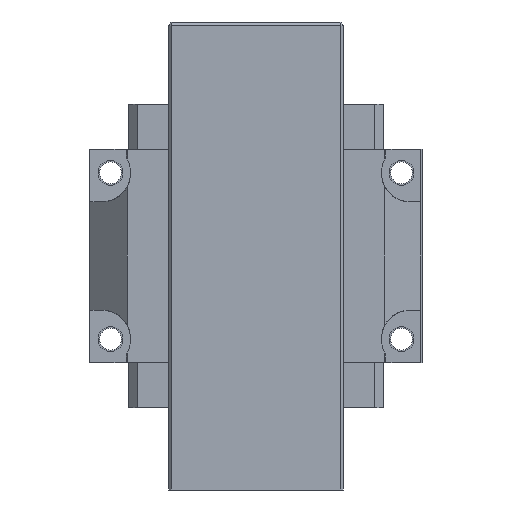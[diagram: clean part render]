
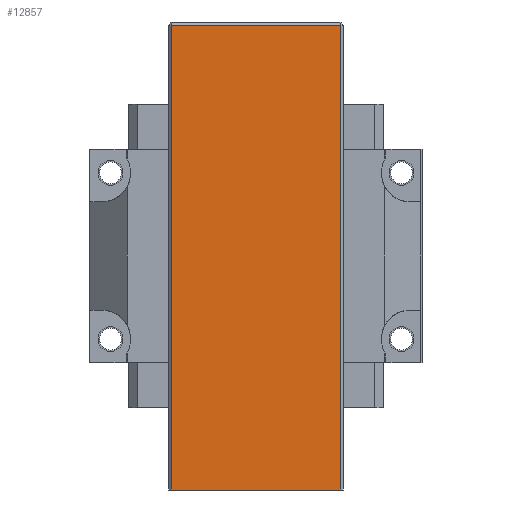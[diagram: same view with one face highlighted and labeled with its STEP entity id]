
A CAD part, front view. The second image highlights one B-rep face of the part: STEP entity #12857.
In plain terms, the highlighted planar face has unit normal (0, -1, 0).
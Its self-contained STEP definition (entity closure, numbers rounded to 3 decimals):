
#11818=DIRECTION('',(1.,0.,0.));
#11819=VECTOR('',#11818,40.8);
#11820=CARTESIAN_POINT('',(-20.4,-10.9,-56.3));
#11821=LINE('',#11820,#11819);
#12091=DIRECTION('',(1.,0.,0.));
#12092=VECTOR('',#12091,40.8);
#12093=CARTESIAN_POINT('',(-20.4,-10.9,55.434));
#12094=LINE('',#12093,#12092);
#12095=DIRECTION('',(0.,0.,1.));
#12096=VECTOR('',#12095,111.734);
#12097=CARTESIAN_POINT('',(-20.4,-10.9,-56.3));
#12098=LINE('',#12097,#12096);
#12103=DIRECTION('',(0.,0.,1.));
#12104=VECTOR('',#12103,111.734);
#12105=CARTESIAN_POINT('',(20.4,-10.9,-56.3));
#12106=LINE('',#12105,#12104);
#12289=CARTESIAN_POINT('',(-20.4,-10.9,-56.3));
#12290=VERTEX_POINT('',#12289);
#12291=CARTESIAN_POINT('',(20.4,-10.9,-56.3));
#12292=VERTEX_POINT('',#12291);
#12353=CARTESIAN_POINT('',(20.4,-10.9,55.434));
#12354=VERTEX_POINT('',#12353);
#12357=CARTESIAN_POINT('',(-20.4,-10.9,55.434));
#12358=VERTEX_POINT('',#12357);
#12845=CARTESIAN_POINT('',(-20.4,-10.9,-56.3));
#12846=DIRECTION('',(0.,-1.,0.));
#12847=DIRECTION('',(1.,0.,0.));
#12848=AXIS2_PLACEMENT_3D('',#12845,#12846,#12847);
#12849=PLANE('',#12848);
#12850=ORIENTED_EDGE('',*,*,#12836,.T.);
#12852=ORIENTED_EDGE('',*,*,#12851,.F.);
#12853=ORIENTED_EDGE('',*,*,#12438,.F.);
#12854=ORIENTED_EDGE('',*,*,#12811,.T.);
#12855=EDGE_LOOP('',(#12850,#12852,#12853,#12854));
#12856=FACE_OUTER_BOUND('',#12855,.F.);
#12438=EDGE_CURVE('',#12290,#12292,#11821,.T.);
#12811=EDGE_CURVE('',#12290,#12358,#12098,.T.);
#12836=EDGE_CURVE('',#12358,#12354,#12094,.T.);
#12851=EDGE_CURVE('',#12292,#12354,#12106,.T.);
#12857=ADVANCED_FACE('',(#12856),#12849,.T.);
